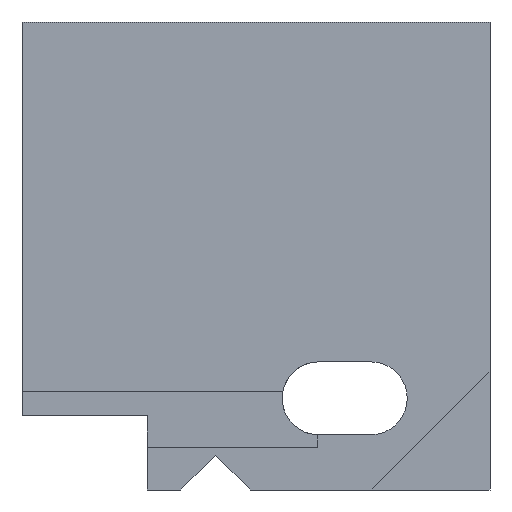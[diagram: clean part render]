
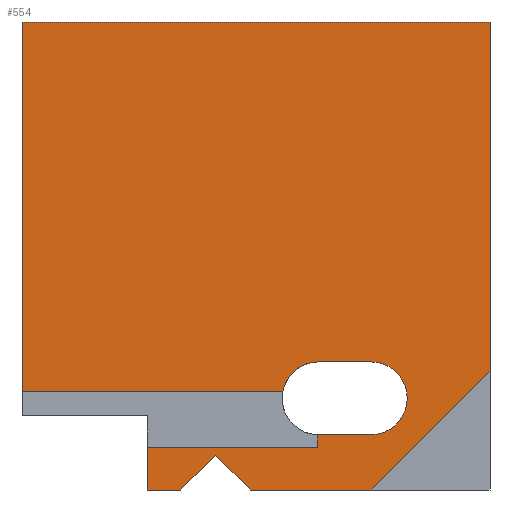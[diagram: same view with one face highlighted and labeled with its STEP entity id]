
A CAD part, left-side view. The second image highlights one B-rep face of the part: STEP entity #554.
In plain terms, the highlighted planar face has unit normal (-1, 0, 0).
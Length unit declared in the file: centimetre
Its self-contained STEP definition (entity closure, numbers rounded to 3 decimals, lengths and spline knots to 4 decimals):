
#4 = VECTOR ( 'NONE', #741, 100. ) ;
#12 = CARTESIAN_POINT ( 'NONE',  ( 0., 254.7576, 118.0222 ) ) ;
#15 = VECTOR ( 'NONE', #618, 100. ) ;
#16 = EDGE_CURVE ( 'NONE', #911, #834, #219, .T. ) ;
#31 = CARTESIAN_POINT ( 'NONE',  ( 0., 254.7576, 118.0222 ) ) ;
#38 = VERTEX_POINT ( 'NONE', #509 ) ;
#59 = EDGE_CURVE ( 'NONE', #687, #416, #146, .T. ) ;
#62 = AXIS2_PLACEMENT_3D ( 'NONE', #816, #459, #235 ) ;
#70 = FACE_OUTER_BOUND ( 'NONE', #400, .T. ) ;
#71 = EDGE_CURVE ( 'NONE', #425, #621, #126, .T. ) ;
#72 = DIRECTION ( 'NONE',  ( 0., -0.707, 0.707 ) ) ;
#74 = DIRECTION ( 'NONE',  ( 0., -1., 0. ) ) ;
#79 = CARTESIAN_POINT ( 'NONE',  ( 0., 0., 1000. ) ) ;
#88 = DIRECTION ( 'NONE',  ( 0., 0., -1. ) ) ;
#100 = DIRECTION ( 'NONE',  ( 0., 1., 0. ) ) ;
#103 = CARTESIAN_POINT ( 'NONE',  ( 0., 660.9795, 0. ) ) ;
#107 = ORIENTED_EDGE ( 'NONE', *, *, #71, .T. ) ;
#120 = LINE ( 'NONE', #900, #15 ) ;
#124 = EDGE_CURVE ( 'NONE', #425, #354, #462, .T. ) ;
#126 = CIRCLE ( 'NONE', #319, 77.9214 ) ;
#140 = LINE ( 'NONE', #79, #490 ) ;
#142 = DIRECTION ( 'NONE',  ( 0., 0., -1. ) ) ;
#146 = LINE ( 'NONE', #360, #214 ) ;
#151 = DIRECTION ( 'NONE',  ( 0., 0., -1. ) ) ;
#187 = EDGE_CURVE ( 'NONE', #542, #215, #395, .T. ) ;
#191 = ORIENTED_EDGE ( 'NONE', *, *, #16, .T. ) ;
#201 = VERTEX_POINT ( 'NONE', #383 ) ;
#213 = VERTEX_POINT ( 'NONE', #317 ) ;
#214 = VECTOR ( 'NONE', #433, 100. ) ;
#215 = VERTEX_POINT ( 'NONE', #31 ) ;
#216 = VECTOR ( 'NONE', #402, 100. ) ;
#218 = DIRECTION ( 'NONE',  ( 0., 0., -1. ) ) ;
#219 = LINE ( 'NONE', #357, #503 ) ;
#221 = DIRECTION ( 'NONE',  ( 0., -1., 0. ) ) ;
#231 = LINE ( 'NONE', #817, #351 ) ;
#233 = ORIENTED_EDGE ( 'NONE', *, *, #893, .T. ) ;
#235 = DIRECTION ( 'NONE',  ( 0., 0., -1. ) ) ;
#257 = ORIENTED_EDGE ( 'NONE', *, *, #899, .T. ) ;
#268 = ORIENTED_EDGE ( 'NONE', *, *, #534, .T. ) ;
#309 = CARTESIAN_POINT ( 'NONE',  ( 0., 254.7576, 195.9436 ) ) ;
#315 = CARTESIAN_POINT ( 'NONE',  ( 0., 252.2787, 0. ) ) ;
#316 = LINE ( 'NONE', #384, #363 ) ;
#317 = CARTESIAN_POINT ( 'NONE',  ( 0., 732.6604, 0. ) ) ;
#319 = AXIS2_PLACEMENT_3D ( 'NONE', #793, #719, #142 ) ;
#321 = DIRECTION ( 'NONE',  ( 0., 1., 0. ) ) ;
#322 = VECTOR ( 'NONE', #74, 100. ) ;
#335 = ORIENTED_EDGE ( 'NONE', *, *, #770, .F. ) ;
#340 = VERTEX_POINT ( 'NONE', #913 ) ;
#351 = VECTOR ( 'NONE', #88, 100. ) ;
#354 = VERTEX_POINT ( 'NONE', #769 ) ;
#357 = CARTESIAN_POINT ( 'NONE',  ( 0., 586.4414, 74.5381 ) ) ;
#360 = CARTESIAN_POINT ( 'NONE',  ( 0., 369.1299, 91.0949 ) ) ;
#363 = VECTOR ( 'NONE', #673, 100. ) ;
#366 = VECTOR ( 'NONE', #221, 100. ) ;
#370 = EDGE_CURVE ( 'NONE', #834, #840, #120, .T. ) ;
#371 = CARTESIAN_POINT ( 'NONE',  ( 0., 732.6604, 0. ) ) ;
#372 = CARTESIAN_POINT ( 'NONE',  ( 0., 369.1299, 211.343 ) ) ;
#374 = DIRECTION ( 'NONE',  ( 0., 0., -1. ) ) ;
#378 = CIRCLE ( 'NONE', #62, 77.9214 ) ;
#383 = CARTESIAN_POINT ( 'NONE',  ( 0., 732.6604, 91.0949 ) ) ;
#384 = CARTESIAN_POINT ( 'NONE',  ( 0., 252.2787, 0. ) ) ;
#388 = CARTESIAN_POINT ( 'NONE',  ( 0., 1000., 0. ) ) ;
#389 = CARTESIAN_POINT ( 'NONE',  ( 0., 586.4414, 74.5381 ) ) ;
#390 = DIRECTION ( 'NONE',  ( 0., 0., -1. ) ) ;
#393 = VECTOR ( 'NONE', #321, 100. ) ;
#395 = CIRCLE ( 'NONE', #470, 77.9214 ) ;
#400 = EDGE_LOOP ( 'NONE', ( #809, #335, #693, #553, #675, #933, #107, #268, #864, #549, #257, #616, #865, #766, #233, #191, #434 ) ) ;
#402 = DIRECTION ( 'NONE',  ( 0., -1., 0. ) ) ;
#412 = CARTESIAN_POINT ( 'NONE',  ( 0., 442.6566, 211.343 ) ) ;
#416 = VERTEX_POINT ( 'NONE', #838 ) ;
#425 = VERTEX_POINT ( 'NONE', #412 ) ;
#433 = DIRECTION ( 'NONE',  ( 0., 0., 1. ) ) ;
#434 = ORIENTED_EDGE ( 'NONE', *, *, #370, .T. ) ;
#450 = CARTESIAN_POINT ( 'NONE',  ( 0., 369.1299, 91.0949 ) ) ;
#459 = DIRECTION ( 'NONE',  ( 1., 0., 0. ) ) ;
#461 = EDGE_CURVE ( 'NONE', #840, #855, #832, .T. ) ;
#462 = LINE ( 'NONE', #372, #565 ) ;
#470 = AXIS2_PLACEMENT_3D ( 'NONE', #309, #531, #390 ) ;
#471 = CARTESIAN_POINT ( 'NONE',  ( 0., 369.1299, 91.0949 ) ) ;
#490 = VECTOR ( 'NONE', #218, 100. ) ;
#497 = CARTESIAN_POINT ( 'NONE',  ( 0., 366.2719, 273.8651 ) ) ;
#503 = VECTOR ( 'NONE', #72, 100. ) ;
#509 = CARTESIAN_POINT ( 'NONE',  ( 0., 0., 252.2787 ) ) ;
#510 = CARTESIAN_POINT ( 'NONE',  ( 0., 366.2719, 273.8651 ) ) ;
#511 = EDGE_CURVE ( 'NONE', #571, #38, #140, .T. ) ;
#514 = LINE ( 'NONE', #510, #366 ) ;
#531 = DIRECTION ( 'NONE',  ( 1., 0., 0. ) ) ;
#534 = EDGE_CURVE ( 'NONE', #621, #542, #514, .T. ) ;
#540 = CARTESIAN_POINT ( 'NONE',  ( 0., 1000., 1000. ) ) ;
#542 = VERTEX_POINT ( 'NONE', #792 ) ;
#548 = VECTOR ( 'NONE', #374, 100. ) ;
#549 = ORIENTED_EDGE ( 'NONE', *, *, #649, .T. ) ;
#553 = ORIENTED_EDGE ( 'NONE', *, *, #568, .F. ) ;
#554 = ADVANCED_FACE ( 'NONE', ( #70 ), #789, .F. ) ;
#565 = VECTOR ( 'NONE', #100, 100. ) ;
#568 = EDGE_CURVE ( 'NONE', #763, #571, #862, .T. ) ;
#571 = VERTEX_POINT ( 'NONE', #654 ) ;
#594 = CARTESIAN_POINT ( 'NONE',  ( 0., 511.9032, 0. ) ) ;
#597 = DIRECTION ( 'NONE',  ( 0., 1., 0. ) ) ;
#616 = ORIENTED_EDGE ( 'NONE', *, *, #59, .F. ) ;
#618 = DIRECTION ( 'NONE',  ( 0., -0.707, -0.707 ) ) ;
#621 = VERTEX_POINT ( 'NONE', #497 ) ;
#649 = EDGE_CURVE ( 'NONE', #215, #340, #875, .T. ) ;
#653 = VECTOR ( 'NONE', #597, 100. ) ;
#654 = CARTESIAN_POINT ( 'NONE',  ( 0., 0., 1000. ) ) ;
#673 = DIRECTION ( 'NONE',  ( 0., 0.707, -0.707 ) ) ;
#675 = ORIENTED_EDGE ( 'NONE', *, *, #795, .T. ) ;
#676 = EDGE_CURVE ( 'NONE', #201, #213, #735, .T. ) ;
#687 = VERTEX_POINT ( 'NONE', #450 ) ;
#693 = ORIENTED_EDGE ( 'NONE', *, *, #511, .F. ) ;
#709 = CARTESIAN_POINT ( 'NONE',  ( 0., 1000., 0. ) ) ;
#719 = DIRECTION ( 'NONE',  ( 1., 0., 0. ) ) ;
#735 = LINE ( 'NONE', #371, #548 ) ;
#741 = DIRECTION ( 'NONE',  ( 0., -1., 0. ) ) ;
#763 = VERTEX_POINT ( 'NONE', #540 ) ;
#766 = ORIENTED_EDGE ( 'NONE', *, *, #676, .T. ) ;
#769 = CARTESIAN_POINT ( 'NONE',  ( 0., 1000., 211.343 ) ) ;
#770 = EDGE_CURVE ( 'NONE', #38, #855, #316, .T. ) ;
#789 = PLANE ( 'NONE',  #892 ) ;
#792 = CARTESIAN_POINT ( 'NONE',  ( 0., 254.7576, 273.8651 ) ) ;
#793 = CARTESIAN_POINT ( 'NONE',  ( 0., 366.2719, 195.9436 ) ) ;
#794 = CARTESIAN_POINT ( 'NONE',  ( 0., 1000., 1000. ) ) ;
#795 = EDGE_CURVE ( 'NONE', #763, #354, #231, .T. ) ;
#796 = LINE ( 'NONE', #471, #393 ) ;
#799 = CARTESIAN_POINT ( 'NONE',  ( 0., 1000., 1000. ) ) ;
#809 = ORIENTED_EDGE ( 'NONE', *, *, #461, .T. ) ;
#816 = CARTESIAN_POINT ( 'NONE',  ( 0., 366.2719, 195.9436 ) ) ;
#817 = CARTESIAN_POINT ( 'NONE',  ( 0., 1000., 1000. ) ) ;
#832 = LINE ( 'NONE', #709, #216 ) ;
#834 = VERTEX_POINT ( 'NONE', #389 ) ;
#838 = CARTESIAN_POINT ( 'NONE',  ( 0., 369.1299, 118.0746 ) ) ;
#840 = VERTEX_POINT ( 'NONE', #594 ) ;
#855 = VERTEX_POINT ( 'NONE', #315 ) ;
#862 = LINE ( 'NONE', #794, #322 ) ;
#864 = ORIENTED_EDGE ( 'NONE', *, *, #187, .T. ) ;
#865 = ORIENTED_EDGE ( 'NONE', *, *, #931, .T. ) ;
#867 = DIRECTION ( 'NONE',  ( 1., 0., 0. ) ) ;
#875 = LINE ( 'NONE', #12, #653 ) ;
#888 = LINE ( 'NONE', #388, #4 ) ;
#892 = AXIS2_PLACEMENT_3D ( 'NONE', #799, #867, #151 ) ;
#893 = EDGE_CURVE ( 'NONE', #213, #911, #888, .T. ) ;
#899 = EDGE_CURVE ( 'NONE', #340, #416, #378, .T. ) ;
#900 = CARTESIAN_POINT ( 'NONE',  ( 0., 511.9032, 0. ) ) ;
#911 = VERTEX_POINT ( 'NONE', #103 ) ;
#913 = CARTESIAN_POINT ( 'NONE',  ( 0., 366.2719, 118.0222 ) ) ;
#931 = EDGE_CURVE ( 'NONE', #687, #201, #796, .T. ) ;
#933 = ORIENTED_EDGE ( 'NONE', *, *, #124, .F. ) ;
